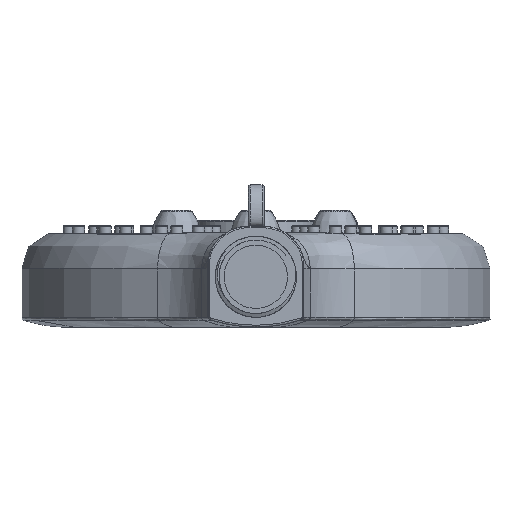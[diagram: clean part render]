
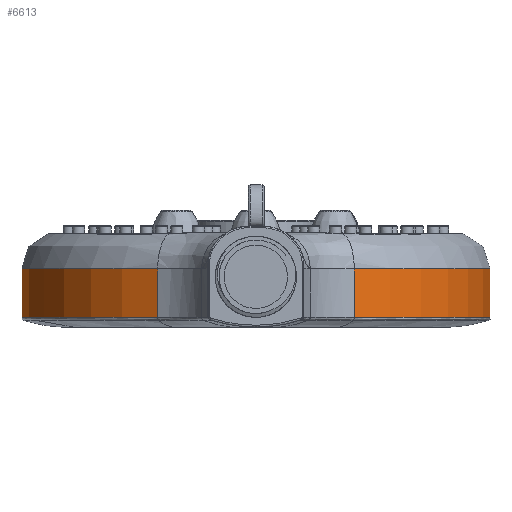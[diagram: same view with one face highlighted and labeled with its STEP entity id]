
A CAD part, front view. The second image highlights one B-rep face of the part: STEP entity #6613.
In plain terms, the highlighted cylindrical face has radius 59 mm (diameter 118 mm), a partial arc.
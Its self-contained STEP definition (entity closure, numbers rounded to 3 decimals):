
#736=CIRCLE('',#7149,59.);
#737=CIRCLE('',#7153,59.);
#1240=FACE_OUTER_BOUND('',#1756,.T.);
#1756=EDGE_LOOP('',(#4506,#4507,#4508,#4509));
#2424=LINE('',#9547,#2621);
#2425=LINE('',#9548,#2622);
#2621=VECTOR('',#7855,10.);
#2622=VECTOR('',#7856,10.);
#2888=VERTEX_POINT('',#9474);
#2889=VERTEX_POINT('',#9476);
#2901=VERTEX_POINT('',#9544);
#2902=VERTEX_POINT('',#9545);
#3512=EDGE_CURVE('',#2888,#2889,#736,.T.);
#3524=EDGE_CURVE('',#2901,#2902,#737,.T.);
#3525=EDGE_CURVE('',#2902,#2888,#2424,.T.);
#3526=EDGE_CURVE('',#2889,#2901,#2425,.T.);
#4506=ORIENTED_EDGE('',*,*,#3524,.T.);
#4507=ORIENTED_EDGE('',*,*,#3525,.T.);
#4508=ORIENTED_EDGE('',*,*,#3512,.T.);
#4509=ORIENTED_EDGE('',*,*,#3526,.T.);
#6440=CYLINDRICAL_SURFACE('',#7152,59.);
#6613=ADVANCED_FACE('',(#1240),#6440,.T.);
#7149=AXIS2_PLACEMENT_3D('',#9478,#7841,#7842);
#7152=AXIS2_PLACEMENT_3D('',#9543,#7851,#7852);
#7153=AXIS2_PLACEMENT_3D('',#9546,#7853,#7854);
#7841=DIRECTION('center_axis',(0.,0.,
-1.));
#7842=DIRECTION('ref_axis',(0.418,-0.908,0.));
#7851=DIRECTION('center_axis',(0.,0.,-1.));
#7852=DIRECTION('ref_axis',(0.,1.,0.));
#7853=DIRECTION('center_axis',(0.,0.,
1.));
#7854=DIRECTION('ref_axis',(-0.418,-0.908,0.));
#7855=DIRECTION('',(0.,0.,1.));
#7856=DIRECTION('',(0.,0.,-1.));
#9474=CARTESIAN_POINT('',(-160.334,138.636,12.729));
#9476=CARTESIAN_POINT('',(-110.976,138.636,12.729));
#9478=CARTESIAN_POINT('Origin',(-135.655,192.226,12.729));
#9543=CARTESIAN_POINT('Origin',(-135.655,192.226,0.));
#9544=CARTESIAN_POINT('',(-110.976,138.636,0.608));
#9545=CARTESIAN_POINT('',(-160.334,138.636,0.608));
#9546=CARTESIAN_POINT('Origin',(-135.655,192.226,0.608));
#9547=CARTESIAN_POINT('',(-160.334,138.636,0.608));
#9548=CARTESIAN_POINT('',(-110.976,138.636,12.729));
